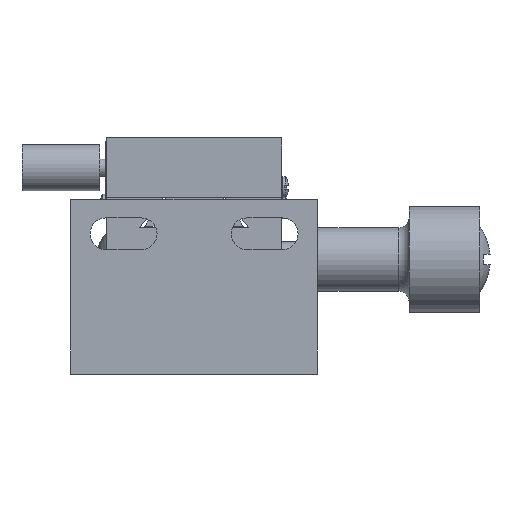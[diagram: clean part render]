
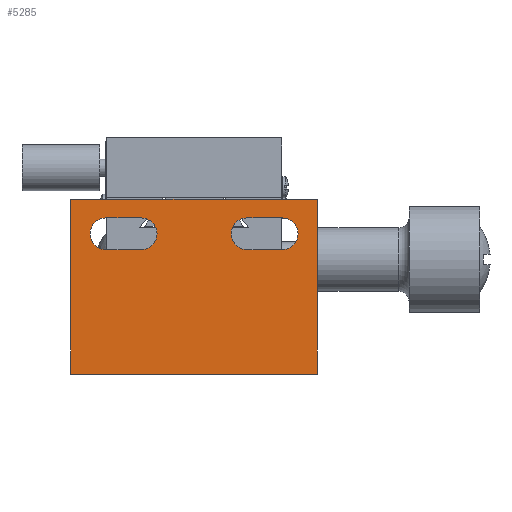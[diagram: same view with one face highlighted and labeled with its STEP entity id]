
A CAD part, front view. The second image highlights one B-rep face of the part: STEP entity #5285.
In plain terms, the highlighted planar face has unit normal (0, -1, 0).
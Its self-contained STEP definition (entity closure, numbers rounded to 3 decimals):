
#4265 = VERTEX_POINT ( 'NONE', #11058 ) ;
#4353 = VERTEX_POINT ( 'NONE', #11119 ) ;
#4356 = EDGE_CURVE ( 'NONE', #4265, #4353, #11207, .T. ) ;
#5280 = VERTEX_POINT ( 'NONE', #13265 ) ;
#5283 = EDGE_CURVE ( 'NONE', #5855, #5280, #13252, .T. ) ;
#5284 = EDGE_CURVE ( 'NONE', #5286, #5644, #13247, .T. ) ;
#5285 = ADVANCED_FACE ( 'NONE', ( #13243, #13242, #13241 ), #13240, .T. ) ;
#5286 = VERTEX_POINT ( 'NONE', #13235 ) ;
#5288 = EDGE_CURVE ( 'NONE', #5651, #5721, #13202, .T. ) ;
#5289 = VERTEX_POINT ( 'NONE', #13198 ) ;
#5290 = ORIENTED_EDGE ( 'NONE', *, *, #5856, .F. ) ;
#5294 = ORIENTED_EDGE ( 'NONE', *, *, #5288, .F. ) ;
#5304 = VERTEX_POINT ( 'NONE', #13187 ) ;
#5308 = EDGE_CURVE ( 'NONE', #5304, #5312, #13178, .T. ) ;
#5312 = VERTEX_POINT ( 'NONE', #13174 ) ;
#5605 = ORIENTED_EDGE ( 'NONE', *, *, #5857, .T. ) ;
#5606 = ORIENTED_EDGE ( 'NONE', *, *, #5284, .F. ) ;
#5608 = ORIENTED_EDGE ( 'NONE', *, *, #5308, .F. ) ;
#5609 = ORIENTED_EDGE ( 'NONE', *, *, #5648, .T. ) ;
#5643 = EDGE_LOOP ( 'NONE', ( #5608, #5609, #5755, #5605 ) ) ;
#5644 = VERTEX_POINT ( 'NONE', #13981 ) ;
#5646 = ORIENTED_EDGE ( 'NONE', *, *, #5852, .F. ) ;
#5647 = EDGE_CURVE ( 'NONE', #5289, #5649, #13979, .T. ) ;
#5648 = EDGE_CURVE ( 'NONE', #5304, #4265, #13980, .T. ) ;
#5649 = VERTEX_POINT ( 'NONE', #13971 ) ;
#5651 = VERTEX_POINT ( 'NONE', #13970 ) ;
#5652 = EDGE_LOOP ( 'NONE', ( #5853, #5646, #5754, #5858 ) ) ;
#5679 = EDGE_LOOP ( 'NONE', ( #5895, #5606, #5290, #5294 ) ) ;
#5721 = VERTEX_POINT ( 'NONE', #14179 ) ;
#5753 = EDGE_CURVE ( 'NONE', #5280, #5289, #14193, .T. ) ;
#5754 = ORIENTED_EDGE ( 'NONE', *, *, #5647, .F. ) ;
#5755 = ORIENTED_EDGE ( 'NONE', *, *, #4356, .T. ) ;
#5852 = EDGE_CURVE ( 'NONE', #5649, #5855, #14403, .T. ) ;
#5853 = ORIENTED_EDGE ( 'NONE', *, *, #5283, .F. ) ;
#5854 = EDGE_CURVE ( 'NONE', #5644, #5651, #14399, .T. ) ;
#5855 = VERTEX_POINT ( 'NONE', #14394 ) ;
#5856 = EDGE_CURVE ( 'NONE', #5721, #5286, #14378, .T. ) ;
#5857 = EDGE_CURVE ( 'NONE', #4353, #5312, #14379, .T. ) ;
#5858 = ORIENTED_EDGE ( 'NONE', *, *, #5753, .F. ) ;
#5895 = ORIENTED_EDGE ( 'NONE', *, *, #5854, .F. ) ;
#11058 = CARTESIAN_POINT ( 'NONE',  ( 17.5, -27., -8.7 ) ) ;
#11119 = CARTESIAN_POINT ( 'NONE',  ( -17.5, -27., -8.7 ) ) ;
#11204 = DIRECTION ( 'NONE',  ( -1., 0., 0. ) ) ;
#11205 = VECTOR ( 'NONE', #11204, 1000. ) ;
#11206 = CARTESIAN_POINT ( 'NONE',  ( 17.5, -27., -8.7 ) ) ;
#11207 = LINE ( 'NONE', #11206, #11205 ) ;
#13174 = CARTESIAN_POINT ( 'NONE',  ( -17.5, -27., -33.5 ) ) ;
#13175 = DIRECTION ( 'NONE',  ( -1., 0., 0. ) ) ;
#13176 = VECTOR ( 'NONE', #13175, 1000. ) ;
#13177 = CARTESIAN_POINT ( 'NONE',  ( -12.4, -27., -33.5 ) ) ;
#13178 = LINE ( 'NONE', #13177, #13176 ) ;
#13187 = CARTESIAN_POINT ( 'NONE',  ( 17.5, -27., -33.5 ) ) ;
#13198 = CARTESIAN_POINT ( 'NONE',  ( 7.5, -27., -11.35 ) ) ;
#13199 = DIRECTION ( 'NONE',  ( -1., 0., 0. ) ) ;
#13200 = VECTOR ( 'NONE', #13199, 1000. ) ;
#13201 = CARTESIAN_POINT ( 'NONE',  ( -7.5, -27., -11.35 ) ) ;
#13202 = LINE ( 'NONE', #13201, #13200 ) ;
#13235 = CARTESIAN_POINT ( 'NONE',  ( -12.5, -27., -15.85 ) ) ;
#13236 = DIRECTION ( 'NONE',  ( 0., 0., -1. ) ) ;
#13237 = DIRECTION ( 'NONE',  ( 0., -1., 0. ) ) ;
#13238 = CARTESIAN_POINT ( 'NONE',  ( -12.4, -27., -33.5 ) ) ;
#13239 = AXIS2_PLACEMENT_3D ( 'NONE', #13238, #13237, #13236 ) ;
#13240 = PLANE ( 'NONE',  #13239 ) ;
#13241 = FACE_OUTER_BOUND ( 'NONE', #5643, .T. ) ;
#13242 = FACE_BOUND ( 'NONE', #5652, .T. ) ;
#13243 = FACE_BOUND ( 'NONE', #5679, .T. ) ;
#13244 = DIRECTION ( 'NONE',  ( 1., 0., 0. ) ) ;
#13245 = VECTOR ( 'NONE', #13244, 1000. ) ;
#13246 = CARTESIAN_POINT ( 'NONE',  ( -7.5, -27., -15.85 ) ) ;
#13247 = LINE ( 'NONE', #13246, #13245 ) ;
#13248 = DIRECTION ( 'NONE',  ( 0., 0., 1. ) ) ;
#13249 = DIRECTION ( 'NONE',  ( 0., -1., 0. ) ) ;
#13250 = CARTESIAN_POINT ( 'NONE',  ( 12.5, -27., -13.6 ) ) ;
#13251 = AXIS2_PLACEMENT_3D ( 'NONE', #13250, #13249, #13248 ) ;
#13252 = CIRCLE ( 'NONE', #13251, 2.25 ) ;
#13265 = CARTESIAN_POINT ( 'NONE',  ( 12.5, -27., -11.35 ) ) ;
#13970 = CARTESIAN_POINT ( 'NONE',  ( -7.5, -27., -11.35 ) ) ;
#13971 = CARTESIAN_POINT ( 'NONE',  ( 7.5, -27., -15.85 ) ) ;
#13972 = DIRECTION ( 'NONE',  ( 0., 0., 1. ) ) ;
#13973 = VECTOR ( 'NONE', #13972, 1000. ) ;
#13974 = CARTESIAN_POINT ( 'NONE',  ( 17.5, -27., -33.5 ) ) ;
#13975 = DIRECTION ( 'NONE',  ( 0., 0., -1. ) ) ;
#13976 = DIRECTION ( 'NONE',  ( 0., -1., 0. ) ) ;
#13977 = CARTESIAN_POINT ( 'NONE',  ( 7.5, -27., -13.6 ) ) ;
#13978 = AXIS2_PLACEMENT_3D ( 'NONE', #13977, #13976, #13975 ) ;
#13979 = CIRCLE ( 'NONE', #13978, 2.25 ) ;
#13980 = LINE ( 'NONE', #13974, #13973 ) ;
#13981 = CARTESIAN_POINT ( 'NONE',  ( -7.5, -27., -15.85 ) ) ;
#14179 = CARTESIAN_POINT ( 'NONE',  ( -12.5, -27., -11.35 ) ) ;
#14190 = DIRECTION ( 'NONE',  ( -1., 0., 0. ) ) ;
#14191 = VECTOR ( 'NONE', #14190, 1000. ) ;
#14192 = CARTESIAN_POINT ( 'NONE',  ( 12.5, -27., -11.35 ) ) ;
#14193 = LINE ( 'NONE', #14192, #14191 ) ;
#14371 = DIRECTION ( 'NONE',  ( 0., 0., -1. ) ) ;
#14372 = VECTOR ( 'NONE', #14371, 1000. ) ;
#14373 = CARTESIAN_POINT ( 'NONE',  ( -17.5, -27., -33.5 ) ) ;
#14374 = DIRECTION ( 'NONE',  ( 0., 0., -1. ) ) ;
#14375 = DIRECTION ( 'NONE',  ( 0., -1., 0. ) ) ;
#14376 = CARTESIAN_POINT ( 'NONE',  ( -12.5, -27., -13.6 ) ) ;
#14377 = AXIS2_PLACEMENT_3D ( 'NONE', #14376, #14375, #14374 ) ;
#14378 = CIRCLE ( 'NONE', #14377, 2.25 ) ;
#14379 = LINE ( 'NONE', #14373, #14372 ) ;
#14394 = CARTESIAN_POINT ( 'NONE',  ( 12.5, -27., -15.85 ) ) ;
#14395 = DIRECTION ( 'NONE',  ( 0., 0., 1. ) ) ;
#14396 = DIRECTION ( 'NONE',  ( 0., -1., 0. ) ) ;
#14397 = CARTESIAN_POINT ( 'NONE',  ( -7.5, -27., -13.6 ) ) ;
#14398 = AXIS2_PLACEMENT_3D ( 'NONE', #14397, #14396, #14395 ) ;
#14399 = CIRCLE ( 'NONE', #14398, 2.25 ) ;
#14400 = DIRECTION ( 'NONE',  ( 1., 0., 0. ) ) ;
#14401 = VECTOR ( 'NONE', #14400, 1000. ) ;
#14402 = CARTESIAN_POINT ( 'NONE',  ( 12.5, -27., -15.85 ) ) ;
#14403 = LINE ( 'NONE', #14402, #14401 ) ;
